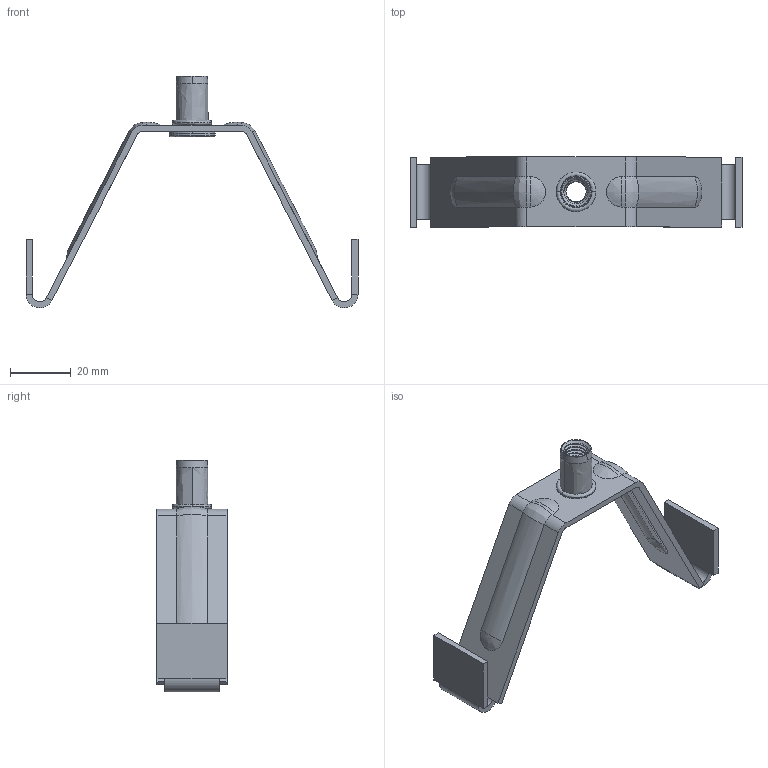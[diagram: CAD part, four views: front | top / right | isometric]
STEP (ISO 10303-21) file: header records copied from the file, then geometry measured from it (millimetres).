
FILE_DESCRIPTION(/* description */ (''),/* implementation_level */ '2;1');
FILE_NAME(/* name */ 'DZM310~1',/* time_stamp */ '2024-09-26T14:15:12+02:00',/* author */ (''),/* organization */ (''),/* preprocessor_version */ 'ST-DEVELOPER v16.5',/* originating_system */ '',/* authorisation */ '');
FILE_SCHEMA (('CONFIG_CONTROL_DESIGN'));
Length unit declared in the file: millimetre
Products named in the file (1): Document
Bounding box: 109 x 23 x 76.15 mm (x, y, z)
Volume: 9795.7 mm3; surface area: 12435.9 mm2
Topology: 2 solids, 3 shells, 1269 faces, 3344 edges, 2075 vertices
Faces by surface type: plane 605, bspline 522, cylinder 142
Entity records: 45458 total; most frequent: CARTESIAN_POINT 23978, ORIENTED_EDGE 6688, EDGE_CURVE 3350, B_SPLINE_CURVE_WITH_KNOTS 2733, VERTEX_POINT 2075, EDGE_LOOP 1274, ADVANCED_FACE 1269, FACE_OUTER_BOUND 1269
